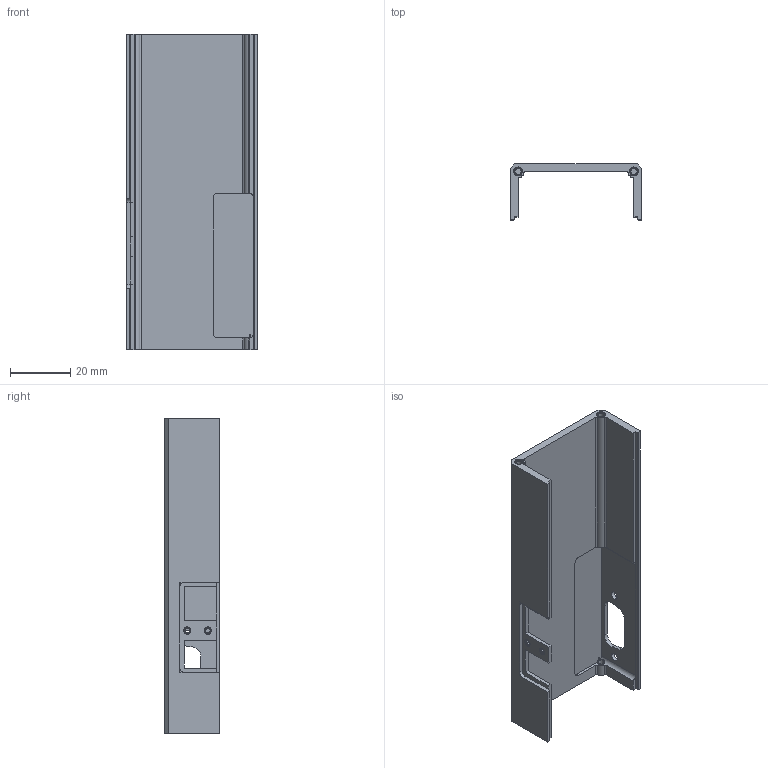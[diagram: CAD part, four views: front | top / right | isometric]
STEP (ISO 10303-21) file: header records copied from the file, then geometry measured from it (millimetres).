
FILE_DESCRIPTION(/* description */ ('VariCAD 2010-3.03 AP-214'),/* implementation_level */ '2;1');
FILE_NAME(/* name */ '0353-11-04',/* time_stamp */ '2011-05-19T14:27:53-06:00',/* author */ (''),/* organization */ (''),/* preprocessor_version */ 'ST-DEVELOPER v12',/* originating_system */ 'VariCAD 2010-3.03; kernel version (20100102)',/* authorisation */ '');
FILE_SCHEMA (('AUTOMOTIVE_DESIGN'));
Length unit declared in the file: millimetre
Products named in the file (1): Part
Bounding box: 43.5 x 18.5 x 104.77 mm (x, y, z)
Volume: 17220.4 mm3; surface area: 16212.8 mm2
Topology: 7 solids, 7 shells, 157 faces, 393 edges, 248 vertices
Faces by surface type: cylinder 70, plane 63, cone 24
Entity records: 4862 total; most frequent: DIRECTION 869, CARTESIAN_POINT 858, ORIENTED_EDGE 786, EDGE_CURVE 393, AXIS2_PLACEMENT_3D 319, VERTEX_POINT 248, LINE 231, VECTOR 231
